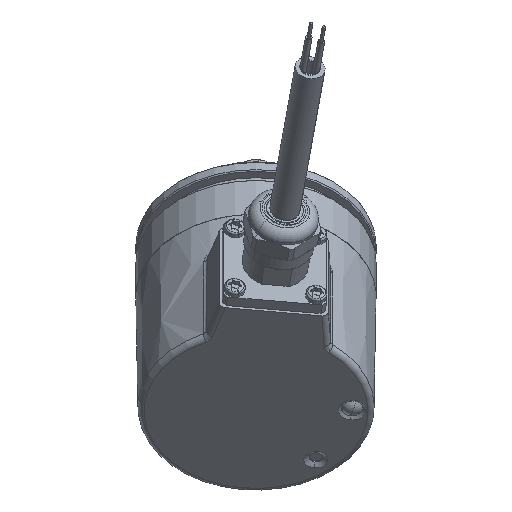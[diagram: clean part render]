
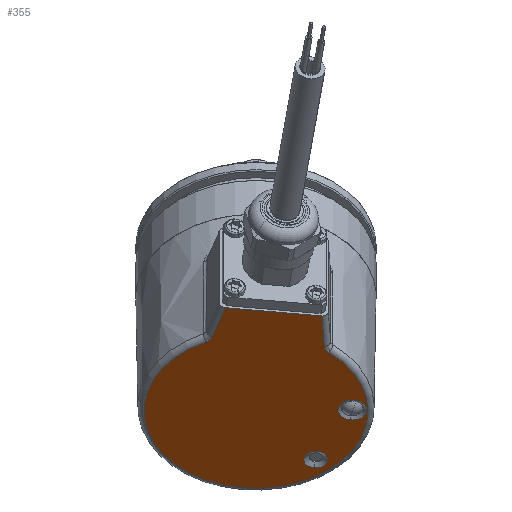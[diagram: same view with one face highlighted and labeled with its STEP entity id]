
A CAD part, top view. The second image highlights one B-rep face of the part: STEP entity #355.
In plain terms, the highlighted planar face has unit normal (0, -0.725, 0.688).
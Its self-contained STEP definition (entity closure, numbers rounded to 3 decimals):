
#355 = ADVANCED_FACE ( 'NONE', ( #2547, #2559, #2551 ), #16026, .F. ) ;
#1172 = EDGE_LOOP ( 'NONE', ( #17445, #17446 ) ) ;
#1207 = EDGE_LOOP ( 'NONE', ( #17443, #17444 ) ) ;
#1211 = EDGE_LOOP ( 'NONE', ( #17447, #17448, #17449, #17450, #17451, #17452, #17453 ) ) ;
#2547 = FACE_BOUND ( 'NONE', #1207, .T. ) ;
#2551 = FACE_OUTER_BOUND ( 'NONE', #1211, .T. ) ;
#2559 = FACE_BOUND ( 'NONE', #1172, .T. ) ;
#3904 = VERTEX_POINT ( 'NONE', #13809 ) ;
#3906 = VERTEX_POINT ( 'NONE', #13811 ) ;
#3908 = VERTEX_POINT ( 'NONE', #13813 ) ;
#3910 = VERTEX_POINT ( 'NONE', #13815 ) ;
#3938 = VERTEX_POINT ( 'NONE', #13838 ) ;
#3980 = VERTEX_POINT ( 'NONE', #13898 ) ;
#7006 = AXIS2_PLACEMENT_3D ( 'NONE', #11470, #11471, #11472 ) ;
#7008 = AXIS2_PLACEMENT_3D ( 'NONE', #11480, #11481, #11482 ) ;
#7057 = AXIS2_PLACEMENT_3D ( 'NONE', #11780, #11781, #11782 ) ;
#7203 = AXIS2_PLACEMENT_3D ( 'NONE', #13899, #13901, #13903 ) ;
#7204 = AXIS2_PLACEMENT_3D ( 'NONE', #13963, #13965, #13967 ) ;
#7205 = AXIS2_PLACEMENT_3D ( 'NONE', #13971, #13973, #13975 ) ;
#11470 = CARTESIAN_POINT ( 'NONE',  ( 44.246, -21.846, 21.287 ) ) ;
#11471 = DIRECTION ( 'NONE',  ( 0., 0.725, -0.688 ) ) ;
#11472 = DIRECTION ( 'NONE',  ( -0.122, -0.683, -0.72 ) ) ;
#11480 = CARTESIAN_POINT ( 'NONE',  ( 35.45, -33.771, 8.719 ) ) ;
#11481 = DIRECTION ( 'NONE',  ( 0., 0.725, -0.688 ) ) ;
#11482 = DIRECTION ( 'NONE',  ( -0.122, -0.683, -0.72 ) ) ;
#11780 = CARTESIAN_POINT ( 'NONE',  ( 21., -22.126, 20.993 ) ) ;
#11781 = DIRECTION ( 'NONE',  ( 0., -0.725, 0.688 ) ) ;
#11782 = DIRECTION ( 'NONE',  ( -0.122, -0.683, -0.72 ) ) ;
#12048 = CIRCLE ( 'NONE', #7006, 3.466 ) ;
#12054 = CIRCLE ( 'NONE', #7008, 2.899 ) ;
#12153 = CIRCLE ( 'NONE', #7057, 27.022 ) ;
#12502 = CIRCLE ( 'NONE', #7203, 27.022 ) ;
#12503 = LINE ( 'NONE', #13928, #12507 ) ;
#12504 = LINE ( 'NONE', #13923, #12505 ) ;
#12505 = VECTOR ( 'NONE', #13926, 1000. ) ;
#12506 = LINE ( 'NONE', #13933, #12509 ) ;
#12507 = VECTOR ( 'NONE', #13931, 1000. ) ;
#12508 = CIRCLE ( 'NONE', #7205, 3.466 ) ;
#12509 = VECTOR ( 'NONE', #13936, 1000. ) ;
#12510 = CIRCLE ( 'NONE', #7204, 2.899 ) ;
#13809 = CARTESIAN_POINT ( 'NONE',  ( 10.522, -4.22, 39.865 ) ) ;
#13811 = CARTESIAN_POINT ( 'NONE',  ( 13.626, 2.769, 47.231 ) ) ;
#13813 = CARTESIAN_POINT ( 'NONE',  ( 36.905, 0.801, 45.157 ) ) ;
#13815 = CARTESIAN_POINT ( 'NONE',  ( 8.986, -5.466, 38.552 ) ) ;
#13838 = CARTESIAN_POINT ( 'NONE',  ( 37.461, -6.496, 37.466 ) ) ;
#13887 = CARTESIAN_POINT ( 'NONE',  ( 37.461, -6.496, 37.466 ) ) ;
#13895 = CARTESIAN_POINT ( 'NONE',  ( 8.986, -5.466, 38.552 ) ) ;
#13898 = CARTESIAN_POINT ( 'NONE',  ( 17.707, -40.586, 1.536 ) ) ;
#13897 = CARTESIAN_POINT ( 'NONE',  ( 9.17, -5.403, 38.618 ) ) ;
#13899 = CARTESIAN_POINT ( 'NONE',  ( 21., -22.126, 20.993 ) ) ;
#13901 = DIRECTION ( 'NONE',  ( 0., -0.725, 0.688 ) ) ;
#13903 = DIRECTION ( 'NONE',  ( -0.122, -0.683, -0.72 ) ) ;
#13905 = CARTESIAN_POINT ( 'NONE',  ( 37.471, -6.637, 37.317 ) ) ;
#13907 = CARTESIAN_POINT ( 'NONE',  ( 9.344, -5.327, 38.698 ) ) ;
#13909 = CARTESIAN_POINT ( 'NONE',  ( 9.664, -5.155, 38.88 ) ) ;
#13911 = CARTESIAN_POINT ( 'NONE',  ( 9.81, -5.058, 38.982 ) ) ;
#13913 = CARTESIAN_POINT ( 'NONE',  ( 10.073, -4.845, 39.206 ) ) ;
#13915 = CARTESIAN_POINT ( 'NONE',  ( 10.189, -4.728, 39.33 ) ) ;
#13917 = CARTESIAN_POINT ( 'NONE',  ( 10.383, -4.483, 39.588 ) ) ;
#13919 = CARTESIAN_POINT ( 'NONE',  ( 10.462, -4.355, 39.723 ) ) ;
#13921 = CARTESIAN_POINT ( 'NONE',  ( 10.522, -4.22, 39.865 ) ) ;
#13923 = CARTESIAN_POINT ( 'NONE',  ( 10.322, -4.669, 39.392 ) ) ;
#13926 = DIRECTION ( 'NONE',  ( -0.292, -0.658, -0.694 ) ) ;
#13928 = CARTESIAN_POINT ( 'NONE',  ( 12.114, 2.896, 47.365 ) ) ;
#13931 = DIRECTION ( 'NONE',  ( 0.993, -0.084, -0.088 ) ) ;
#13933 = CARTESIAN_POINT ( 'NONE',  ( 36.919, 0.619, 44.965 ) ) ;
#13936 = DIRECTION ( 'NONE',  ( -0.052, 0.687, 0.724 ) ) ;
#13941 = CARTESIAN_POINT ( 'NONE',  ( 37.503, -6.778, 37.169 ) ) ;
#13943 = CARTESIAN_POINT ( 'NONE',  ( 37.606, -7.048, 36.884 ) ) ;
#13945 = CARTESIAN_POINT ( 'NONE',  ( 37.677, -7.178, 36.747 ) ) ;
#13947 = CARTESIAN_POINT ( 'NONE',  ( 37.857, -7.429, 36.483 ) ) ;
#13949 = CARTESIAN_POINT ( 'NONE',  ( 37.967, -7.549, 36.356 ) ) ;
#13951 = CARTESIAN_POINT ( 'NONE',  ( 38.216, -7.769, 36.124 ) ) ;
#13953 = CARTESIAN_POINT ( 'NONE',  ( 38.356, -7.87, 36.018 ) ) ;
#13955 = CARTESIAN_POINT ( 'NONE',  ( 38.512, -7.961, 35.922 ) ) ;
#13963 = CARTESIAN_POINT ( 'NONE',  ( 35.45, -33.771, 8.719 ) ) ;
#13965 = DIRECTION ( 'NONE',  ( 0., 0.725, -0.688 ) ) ;
#13967 = DIRECTION ( 'NONE',  ( -0.122, -0.683, -0.72 ) ) ;
#13971 = CARTESIAN_POINT ( 'NONE',  ( 44.246, -21.846, 21.287 ) ) ;
#13973 = DIRECTION ( 'NONE',  ( 0., 0.725, -0.688 ) ) ;
#13975 = DIRECTION ( 'NONE',  ( -0.122, -0.683, -0.72 ) ) ;
#14368 = CARTESIAN_POINT ( 'NONE',  ( 35.804, -31.79, 10.807 ) ) ;
#14374 = CARTESIAN_POINT ( 'NONE',  ( 43.824, -24.214, 18.792 ) ) ;
#14380 = CARTESIAN_POINT ( 'NONE',  ( 35.097, -35.751, 6.632 ) ) ;
#14386 = CARTESIAN_POINT ( 'NONE',  ( 44.669, -19.479, 23.783 ) ) ;
#14664 = CARTESIAN_POINT ( 'NONE',  ( 38.512, -7.961, 35.922 ) ) ;
#15928 = DIRECTION ( 'NONE',  ( -0.122, -0.683, -0.72 ) ) ;
#16026 = PLANE ( 'NONE',  #19717 ) ;
#16043 = DIRECTION ( 'NONE',  ( 0., 0.725, -0.688 ) ) ;
#16050 = CARTESIAN_POINT ( 'NONE',  ( 21., -22.126, 20.993 ) ) ;
#16430 = VERTEX_POINT ( 'NONE', #14368 ) ;
#16436 = VERTEX_POINT ( 'NONE', #14374 ) ;
#16442 = VERTEX_POINT ( 'NONE', #14380 ) ;
#16448 = VERTEX_POINT ( 'NONE', #14386 ) ;
#16658 = VERTEX_POINT ( 'NONE', #14664 ) ;
#17443 = ORIENTED_EDGE ( 'NONE', *, *, #23968, .T. ) ;
#17444 = ORIENTED_EDGE ( 'NONE', *, *, #24386, .T. ) ;
#17445 = ORIENTED_EDGE ( 'NONE', *, *, #23972, .T. ) ;
#17446 = ORIENTED_EDGE ( 'NONE', *, *, #24385, .T. ) ;
#17447 = ORIENTED_EDGE ( 'NONE', *, *, #24384, .F. ) ;
#17448 = ORIENTED_EDGE ( 'NONE', *, *, #24383, .T. ) ;
#17449 = ORIENTED_EDGE ( 'NONE', *, *, #24382, .F. ) ;
#17450 = ORIENTED_EDGE ( 'NONE', *, *, #24381, .T. ) ;
#17451 = ORIENTED_EDGE ( 'NONE', *, *, #24380, .F. ) ;
#17452 = ORIENTED_EDGE ( 'NONE', *, *, #24379, .T. ) ;
#17453 = ORIENTED_EDGE ( 'NONE', *, *, #24063, .T. ) ;
#19717 = AXIS2_PLACEMENT_3D ( 'NONE', #16050, #16043, #15928 ) ;
#20866 = B_SPLINE_CURVE_WITH_KNOTS ( 'NONE', 3,
 ( #13887, #13905, #13941, #13943, #13945, #13947, #13949, #13951, #13953, #13955 ),
 .UNSPECIFIED., .F., .F.,
 ( 4, 2, 2, 2, 4 ),
 ( 0., 0.001, 0.001, 0.002, 0.002 ),
 .UNSPECIFIED. ) ;
#20867 = B_SPLINE_CURVE_WITH_KNOTS ( 'NONE', 3,
 ( #13895, #13897, #13907, #13909, #13911, #13913, #13915, #13917, #13919, #13921 ),
 .UNSPECIFIED., .F., .F.,
 ( 4, 2, 2, 2, 4 ),
 ( 0., 0.001, 0.001, 0.002, 0.002 ),
 .UNSPECIFIED. ) ;
#23968 = EDGE_CURVE ( 'NONE', #16448, #16436, #12048, .T. ) ;
#23972 = EDGE_CURVE ( 'NONE', #16430, #16442, #12054, .T. ) ;
#24063 = EDGE_CURVE ( 'NONE', #3980, #16658, #12153, .T. ) ;
#24379 = EDGE_CURVE ( 'NONE', #3910, #3980, #12502, .T. ) ;
#24380 = EDGE_CURVE ( 'NONE', #3910, #3904, #20867, .T. ) ;
#24381 = EDGE_CURVE ( 'NONE', #3906, #3904, #12504, .T. ) ;
#24382 = EDGE_CURVE ( 'NONE', #3906, #3908, #12503, .T. ) ;
#24383 = EDGE_CURVE ( 'NONE', #3938, #3908, #12506, .T. ) ;
#24384 = EDGE_CURVE ( 'NONE', #3938, #16658, #20866, .T. ) ;
#24385 = EDGE_CURVE ( 'NONE', #16442, #16430, #12510, .T. ) ;
#24386 = EDGE_CURVE ( 'NONE', #16436, #16448, #12508, .T. ) ;
